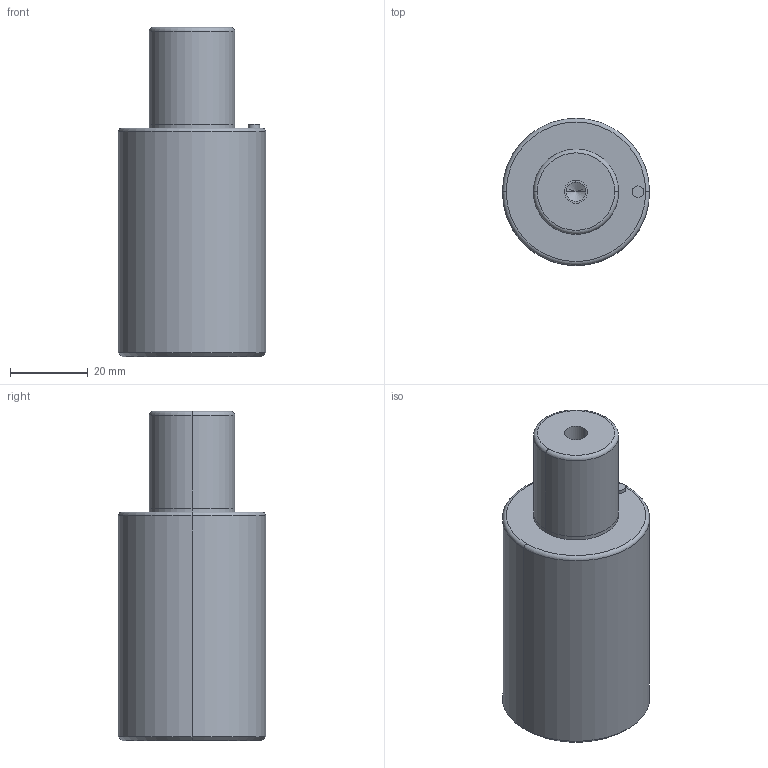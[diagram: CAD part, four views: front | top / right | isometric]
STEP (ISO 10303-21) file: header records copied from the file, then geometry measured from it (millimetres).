
FILE_DESCRIPTION(/* description */ (''),/* implementation_level */ '2;1');
FILE_NAME(/* name */ '3d_gsc38-25_03845_r00.stp',/* time_stamp */ '2011-01-10T14:15:22+09:00',/* author */ ('MISUMI'),/* organization */ (''),/* preprocessor_version */ 'ST-DEVELOPER v11',/* originating_system */ 'UGS - NX 5.0',/* authorisation */ '');
FILE_SCHEMA (('CONFIG_CONTROL_DESIGN'));
Length unit declared in the file: millimetre
Products named in the file (1): 3d_gsc38-25_03845_r00
Bounding box: 38 x 38 x 85 mm (x, y, z)
Volume: 75638 mm3; surface area: 11558.7 mm2
Topology: 1 solids, 1 shells, 32 faces, 66 edges, 38 vertices
Faces by surface type: cylinder 16, cone 6, plane 6, torus 4
Entity records: 912 total; most frequent: DIRECTION 168, CARTESIAN_POINT 133, ORIENTED_EDGE 124, AXIS2_PLACEMENT_3D 73, EDGE_CURVE 62, CIRCLE 40, EDGE_LOOP 38, VERTEX_POINT 38
